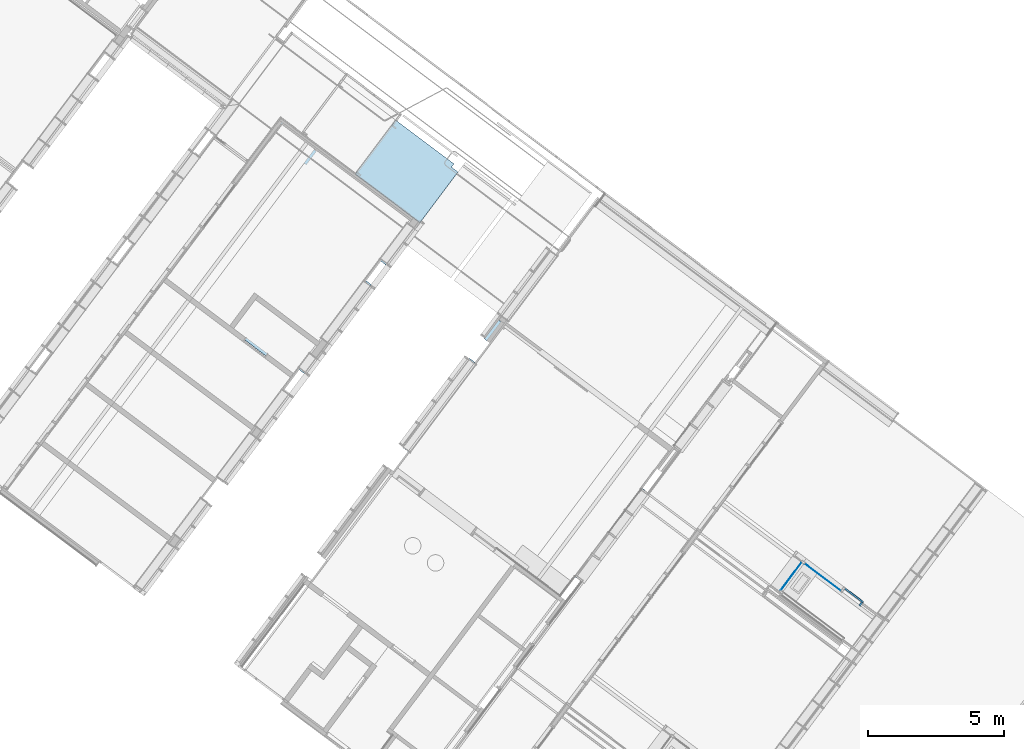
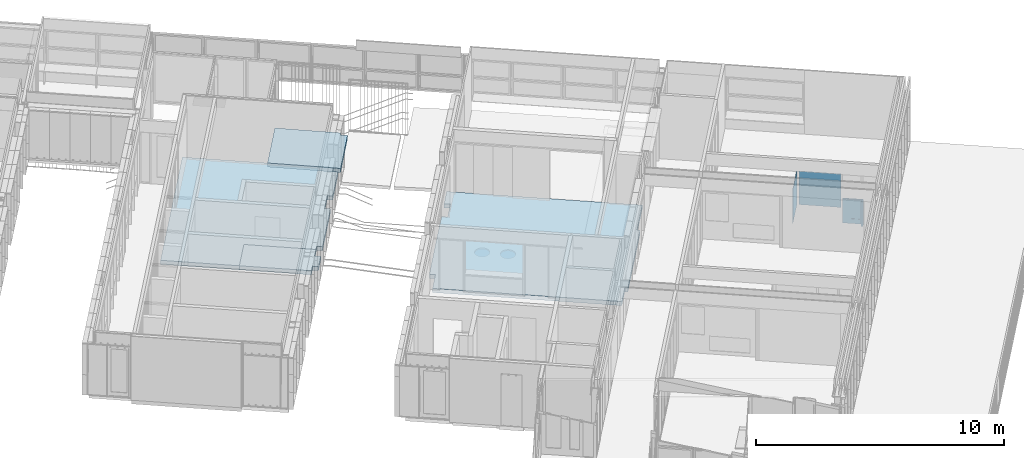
# One storey, part 113 of 243: 5 slabs, 3 plates, 2 elements without a shape of their own.
"""IFC2X3 building model written with IfcOpenShell, lengths in metres."""

from ifc_helpers import new_model, entity, si_unit, converted_unit, derived_unit, direction, frame, frame_2d, origin, origin_2d_with_axis, place, context, subcontext, project, spatial, polyline, rectangle, outline, extrude, clip, halfspace, faceted_brep, source, transform, mapped, material, material_list, layer, layer_set, layer_usage, type_object, type_shapes, element, aggregate, save


model = new_model("IFC2X3")

# Units and contexts
model_context = context("Model", 3, precision=1e-05, world=origin(), true_north=direction((6.123031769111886e-17, 1.0)))
body_context = subcontext(model_context, "Body", "Model", "MODEL_VIEW")
ifc_project = project(units=[si_unit("LENGTHUNIT", "METRE"), si_unit("AREAUNIT", "SQUARE_METRE"), si_unit("VOLUMEUNIT", "CUBIC_METRE"), converted_unit("PLANEANGLEUNIT", "DEGREE", entity("IfcRatioMeasure", 0.017453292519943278), si_unit("PLANEANGLEUNIT", "RADIAN"), dimensions=[0, 0, 0, 0, 0, 0, 0]), si_unit("MASSUNIT", "GRAM", prefix="KILO"), derived_unit("MASSDENSITYUNIT", [(si_unit("MASSUNIT", "GRAM", prefix="KILO"), 1), (si_unit("LENGTHUNIT", "METRE"), -3)]), derived_unit("IONCONCENTRATIONUNIT", [(si_unit("MASSUNIT", "GRAM", prefix="KILO"), 1), (si_unit("LENGTHUNIT", "METRE"), -3)]), derived_unit("MOMENTOFINERTIAUNIT", [(si_unit("LENGTHUNIT", "METRE"), 4)]), si_unit("TIMEUNIT", "SECOND"), si_unit("FREQUENCYUNIT", "HERTZ"), si_unit("THERMODYNAMICTEMPERATUREUNIT", "DEGREE_CELSIUS"), derived_unit("THERMALTRANSMITTANCEUNIT", [(si_unit("MASSUNIT", "GRAM", prefix="KILO"), 1), (si_unit("THERMODYNAMICTEMPERATUREUNIT", "KELVIN"), -1), (si_unit("TIMEUNIT", "SECOND"), -3)]), derived_unit("THERMALCONDUCTANCEUNIT", [(si_unit("MASSUNIT", "GRAM", prefix="KILO"), 1), (si_unit("THERMODYNAMICTEMPERATUREUNIT", "KELVIN"), -1), (si_unit("TIMEUNIT", "SECOND"), -3), (si_unit("LENGTHUNIT", "METRE"), 1)]), derived_unit("VOLUMETRICFLOWRATEUNIT", [(si_unit("LENGTHUNIT", "METRE"), 3), (si_unit("TIMEUNIT", "SECOND"), -1)]), derived_unit("MASSFLOWRATEUNIT", [(si_unit("MASSUNIT", "GRAM", prefix="KILO"), 1), (si_unit("TIMEUNIT", "SECOND"), -1)]), derived_unit("ROTATIONALFREQUENCYUNIT", [(si_unit("TIMEUNIT", "SECOND"), -1)]), si_unit("ELECTRICCURRENTUNIT", "AMPERE"), si_unit("ELECTRICVOLTAGEUNIT", "VOLT"), si_unit("POWERUNIT", "WATT"), si_unit("FORCEUNIT", "NEWTON", prefix="KILO"), si_unit("ILLUMINANCEUNIT", "LUX"), si_unit("LUMINOUSFLUXUNIT", "LUMEN"), si_unit("LUMINOUSINTENSITYUNIT", "CANDELA"), derived_unit("USERDEFINED", [(si_unit("MASSUNIT", "GRAM", prefix="KILO"), -1), (si_unit("LENGTHUNIT", "METRE"), -2), (si_unit("TIMEUNIT", "SECOND"), 3), (si_unit("LUMINOUSFLUXUNIT", "LUMEN"), 1)]), derived_unit("USERDEFINED", [(si_unit("MASSUNIT", "GRAM", prefix="KILO"), 1), (si_unit("TIMEUNIT", "SECOND"), -3), (si_unit("LENGTHUNIT", "METRE"), 3), (si_unit("ELECTRICCURRENTUNIT", "AMPERE"), -2)]), derived_unit("SOUNDPOWERUNIT", [(si_unit("MASSUNIT", "GRAM", prefix="KILO"), 1), (si_unit("TIMEUNIT", "SECOND"), -3), (si_unit("LENGTHUNIT", "METRE"), 2)]), derived_unit("SOUNDPRESSUREUNIT", [(si_unit("MASSUNIT", "GRAM", prefix="KILO"), 1), (si_unit("LENGTHUNIT", "METRE"), -1), (si_unit("TIMEUNIT", "SECOND"), -2)]), derived_unit("LINEARVELOCITYUNIT", [(si_unit("LENGTHUNIT", "METRE"), 1), (si_unit("TIMEUNIT", "SECOND"), -1)]), si_unit("PRESSUREUNIT", "PASCAL"), derived_unit("USERDEFINED", [(si_unit("MASSUNIT", "GRAM", prefix="KILO"), 1), (si_unit("LENGTHUNIT", "METRE"), -2), (si_unit("TIMEUNIT", "SECOND"), -2)]), derived_unit("LINEARFORCEUNIT", [(si_unit("MASSUNIT", "GRAM", prefix="KILO"), 1), (si_unit("TIMEUNIT", "SECOND"), -2)]), derived_unit("PLANARFORCEUNIT", [(si_unit("MASSUNIT", "GRAM", prefix="KILO"), 1), (si_unit("LENGTHUNIT", "METRE"), -1), (si_unit("TIMEUNIT", "SECOND"), -2)]), derived_unit("SPECIFICHEATCAPACITYUNIT", [(si_unit("THERMODYNAMICTEMPERATUREUNIT", "KELVIN"), -1), (si_unit("LENGTHUNIT", "METRE"), 2), (si_unit("TIMEUNIT", "SECOND"), -2)]), derived_unit("HEATINGVALUEUNIT", [(si_unit("LENGTHUNIT", "METRE"), 2), (si_unit("TIMEUNIT", "SECOND"), -2)]), derived_unit("VAPORPERMEABILITYUNIT", [(si_unit("LENGTHUNIT", "METRE"), -1), (si_unit("TIMEUNIT", "SECOND"), 1)]), derived_unit("DYNAMICVISCOSITYUNIT", [(si_unit("MASSUNIT", "GRAM", prefix="KILO"), 1), (si_unit("TIMEUNIT", "SECOND"), -1), (si_unit("LENGTHUNIT", "METRE"), -1)]), derived_unit("THERMALEXPANSIONCOEFFICIENTUNIT", [(si_unit("THERMODYNAMICTEMPERATUREUNIT", "KELVIN"), -1)]), derived_unit("MODULUSOFELASTICITYUNIT", [(si_unit("MASSUNIT", "GRAM", prefix="KILO"), 1), (si_unit("LENGTHUNIT", "METRE"), -1), (si_unit("TIMEUNIT", "SECOND"), -2)]), derived_unit("ISOTHERMALMOISTURECAPACITYUNIT", [(si_unit("LENGTHUNIT", "METRE"), 3), (si_unit("MASSUNIT", "GRAM", prefix="KILO"), -1)]), derived_unit("MOISTUREDIFFUSIVITYUNIT", [(si_unit("TIMEUNIT", "SECOND"), -1), (si_unit("LENGTHUNIT", "METRE"), 2)])], contexts=[model_context])

# Site, building, storey
site_placement = place(None, frame((0.0, 0.0, 235.0), z_axis=(0.0, 0.0, 1.0), x_axis=(-0.7996477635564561, 0.6004693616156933, 0.0)))
site = spatial("IfcSite", under=ifc_project, at=site_placement, Name="Default", CompositionType="ELEMENT")
building_placement = place(site_placement, origin())
building = spatial("IfcBuilding", under=site, at=building_placement, CompositionType="ELEMENT")
storey_placement = place(building_placement, origin())
storey = spatial("IfcBuildingStorey", under=building, at=storey_placement, Name="P0- Escola", CompositionType="ELEMENT", Elevation=0.0)

# Slabs
ifc_material_1 = material(Name="_Formigó antilliscant- T2- PAV")
ifc_layer_1 = layer(ifc_material_1, 0.14)
ifc_material_2 = material(Name="_Aillament")
ifc_layer_2 = layer(ifc_material_2, 0.06)
ifc_layer_set_1 = layer_set([ifc_layer_1, ifc_layer_2], Name="Suelo:PAV- Formigó Antilliscant + aillament- T1- 20 cm")
ifc_layer_usage_1 = layer_usage(ifc_layer_set_1, "AXIS3", "POSITIVE", 0.0)
slab_type_1 = type_object("IfcSlabType", Name="Suelo:PAV- Formigó Antilliscant + aillament- T1- 20 cm", PredefinedType="FLOOR", material=ifc_layer_set_1)
slab_1_placement = place(storey_placement, origin())
element("IfcSlab", 1, at=slab_1_placement, inside=storey, type_object=slab_type_1, material=ifc_layer_usage_1, Name="Suelo:PAV- Formigó Antilliscant + aillament- T1- 20 cm", ObjectType="Suelo:PAV- Formigó Antilliscant + aillament- T1- 20 cm", PredefinedType="FLOOR", context=body_context, shape_type="SweptSolid", body=[
    extrude(outline(polyline([(-0.5173571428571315, -1.4690428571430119), (2.1741428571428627, -1.4690428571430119), (2.1741428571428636, -1.2290428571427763), (2.3976428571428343, -1.2290428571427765), (2.3976428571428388, 1.7029571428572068), (3.9076428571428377, 1.7029571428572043), (3.9076428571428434, 4.905957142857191), (-3.4083571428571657, 4.905957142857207), (-3.408357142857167, -1.2290428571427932), (-3.1363571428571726, -1.2290428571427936), (-3.1363571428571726, -1.4527428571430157), (-1.417357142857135, -1.452742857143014), (-1.4173571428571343, -1.2290428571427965), (-0.5173571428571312, -1.2290428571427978), (-0.5173571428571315, -1.4690428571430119)])), frame((29.874190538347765, -33.94783461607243, 0.0), z_axis=(0.0, 0.0, -1.0), x_axis=(0.0, 1.0, 0.0)), (0.0, 0.0, 1.0), 0.2),
])
slab_2_placement = place(storey_placement, origin())
element("IfcSlab", 2, at=slab_2_placement, inside=storey, type_object=slab_type_1, material=ifc_layer_usage_1, Name="Suelo:PAV- Formigó Antilliscant + aillament- T1- 20 cm", ObjectType="Suelo:PAV- Formigó Antilliscant + aillament- T1- 20 cm", PredefinedType="FLOOR", context=body_context, shape_type="SweptSolid", body=[
    extrude(outline(polyline([(-0.3362499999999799, -0.9205000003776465), (0.3987500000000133, -0.9205000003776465), (0.3987500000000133, -0.6704999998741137), (0.7237499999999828, -0.670499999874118), (0.7237499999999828, 2.2615000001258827), (-0.7862500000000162, 2.2615000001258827), (-0.7862500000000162, -0.6704999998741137), (-0.3362499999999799, -0.6704999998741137), (-0.3362499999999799, -0.9205000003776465)])), frame((29.315647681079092, -30.763941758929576, 0.0), z_axis=(0.0, 0.0, -1.0), x_axis=(0.0, 1.0, 0.0)), (0.0, 0.0, 1.0), 0.2),
])
slab_3_placement = place(storey_placement, origin())
element("IfcSlab", 3, at=slab_3_placement, inside=storey, type_object=slab_type_1, material=ifc_layer_usage_1, Name="Suelo:PAV- Formigó Antilliscant + aillament- T1- 20 cm", ObjectType="Suelo:PAV- Formigó Antilliscant + aillament- T1- 20 cm", PredefinedType="FLOOR", context=body_context, shape_type="SweptSolid", body=[
    extrude(outline(polyline([(-1.5141428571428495, -4.578571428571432), (2.58585714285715, -4.578571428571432), (2.58585714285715, -4.45357142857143), (3.555857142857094, -4.453571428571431), (3.5558571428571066, 3.246428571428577), (2.5858571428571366, 3.2464285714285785), (2.5858571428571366, 3.496428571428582), (-1.5141428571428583, 3.49642857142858), (-1.5141428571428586, 3.2464285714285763), (-2.414142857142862, 3.246428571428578), (-2.4141428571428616, 3.4964285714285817), (-3.2851428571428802, 3.4964285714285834), (-3.2851428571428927, -4.453571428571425), (-1.5141428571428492, -4.453571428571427), (-1.5141428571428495, -4.578571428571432)])), frame((20.398719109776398, -32.95104890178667, 0.0), z_axis=(0.0, 0.0, -1.0), x_axis=(0.0, 1.0, 0.0)), (0.0, 0.0, 1.0), 0.2),
])
ifc_material_3 = material(Name="_Formigó antilliscant- T1 ext- PAV")
ifc_layer_3 = layer(ifc_material_3, 0.14)
ifc_layer_4 = layer(ifc_material_2, 0.06)
ifc_layer_set_2 = layer_set([ifc_layer_3, ifc_layer_4], Name="Suelo:PAV- Formigó Antilliscant + aillament- T1 ext- 20 cm")
ifc_layer_usage_2 = layer_usage(ifc_layer_set_2, "AXIS3", "POSITIVE", 0.0)
slab_type_2 = type_object("IfcSlabType", Name="Suelo:PAV- Formigó Antilliscant + aillament- T1 ext- 20 cm", PredefinedType="FLOOR", material=ifc_layer_set_2)
slab_4_placement = place(storey_placement, origin())
element("IfcSlab", 4, at=slab_4_placement, inside=storey, type_object=slab_type_2, material=ifc_layer_usage_2, Name="Suelo:PAV- Formigó Antilliscant + aillament- T1 ext- 20 cm", ObjectType="Suelo:PAV- Formigó Antilliscant + aillament- T1 ext- 20 cm", PredefinedType="FLOOR", context=body_context, shape_type="SweptSolid", body=[
    clip(clip(extrude(outline(polyline([(-0.7279999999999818, -1.0920246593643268), (1.6059999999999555, -1.0920246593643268), (1.6059999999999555, 1.8840425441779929), (-0.8779999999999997, 1.8840425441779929), (-0.8779999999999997, -0.7920178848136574), (-0.7279999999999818, -0.7920178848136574), (-0.7279999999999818, -1.0920246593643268)])), frame((29.43714768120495, -38.96219175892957, -0.012661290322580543), z_axis=(0.006720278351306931, 0.0, -0.9999774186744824), x_axis=(0.0, 1.0, 0.0)), (0.0, -0.006720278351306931, 0.9999774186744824), 0.20000903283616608), halfspace(frame((31.321147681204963, -38.62519175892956, -0.20000451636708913), z_axis=(0.006720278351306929, 0.0, -0.9999774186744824), x_axis=(-0.9999774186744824, 0.0, -0.006720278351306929)), False)), halfspace(frame((31.321147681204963, -38.62519175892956, 0.0), z_axis=(-0.006720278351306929, 0.0, 0.9999774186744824), x_axis=(0.9999774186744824, 0.0, 0.006720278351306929)), False)),
])
slab_5_placement = place(storey_placement, origin())
element("IfcSlab", 5, at=slab_5_placement, inside=storey, type_object=slab_type_2, material=ifc_layer_usage_2, Name="Suelo:PAV- Formigó Antilliscant + aillament- T1 ext- 20 cm", ObjectType="Suelo:PAV- Formigó Antilliscant + aillament- T1 ext- 20 cm", PredefinedType="FLOOR", context=body_context, shape_type="SweptSolid", body=[
    clip(clip(extrude(outline(polyline([(-0.7279999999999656, -1.0920246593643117), (1.6059999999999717, -1.0920246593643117), (1.6059999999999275, 1.884042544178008), (-0.8780000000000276, 1.8840425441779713), (-0.8779999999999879, -0.7920178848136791), (-0.72799999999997, -0.792017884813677), (-0.7279999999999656, -1.0920246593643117)])), frame((29.43714768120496, -38.96219175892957, -0.012661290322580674), z_axis=(0.006720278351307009, 0.0, -0.9999774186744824), x_axis=(0.0, 1.0, 0.0)), (0.0, -0.006720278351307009, 0.9999774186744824), 0.20000903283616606), halfspace(frame((31.321147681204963, -38.64269175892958, -0.20000451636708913), z_axis=(0.0067202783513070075, 0.0, -0.9999774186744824), x_axis=(-0.9999774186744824, 0.0, -0.0067202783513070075)), False)), halfspace(frame((31.321147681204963, -38.64269175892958, 0.0), z_axis=(-0.0067202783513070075, 0.0, 0.9999774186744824), x_axis=(0.9999774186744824, 0.0, 0.0067202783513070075)), False)),
])

# Curtain wall, plates
curtain_wall_type_1 = type_object("IfcCurtainWallType", Name="Muro cortina:MC- INT- k1", PredefinedType="NOTDEFINED")
curtain_wall_1_placement = place(storey_placement, origin())
curtain_wall_1 = element("IfcCurtainWall", 6, at=curtain_wall_1_placement, inside=storey, type_object=curtain_wall_type_1, Name="Muro cortina:MC- INT- k1", ObjectType="Muro cortina:MC- INT- k1")
ifc_material_4 = material(Name="_Fusta massisa- T1")
ifc_material_5 = material(Name="_Vidre")
ifc_material_list = material_list([ifc_material_4, ifc_material_5])
plate_type_1 = type_object("IfcPlateType", Name="PanellMurCortina_PortaInteriorVidre-infantil inf:PanellMurCortina_PortaInteriorVidre-infantil inf", PredefinedType="CURTAIN_PANEL", material=ifc_material_list)
shared_shape_1 = source(origin(), body_context, "Body", "Brep", [
    faceted_brep([(0.27550000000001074, 0.16299999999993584, 1.0600000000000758), (0.2755000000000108, 0.19299999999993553, 1.0600000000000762), (0.2755000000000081, 0.19299999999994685, 0.239999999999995), (0.2755000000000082, 0.16299999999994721, 0.23999999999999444), (0.29050000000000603, 0.19299999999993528, 1.0750000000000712), (0.29050000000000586, 0.1629999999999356, 1.0750000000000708), (0.2905000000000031, 0.16299999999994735, 0.22499999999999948), (0.2905000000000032, 0.19299999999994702, 0.22499999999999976), (-0.21049999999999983, 0.19299999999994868, 0.2399999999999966), (-0.21049999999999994, 0.16299999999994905, 0.23999999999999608), (-0.2254999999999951, 0.1629999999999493, 0.2250000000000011), (-0.2254999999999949, 0.19299999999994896, 0.22500000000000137), (-0.21049999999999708, 0.1929999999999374, 1.0600000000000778), (-0.2104999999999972, 0.1629999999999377, 1.0600000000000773), (-0.2254999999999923, 0.16299999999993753, 1.0750000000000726), (-0.22549999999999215, 0.19299999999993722, 1.075000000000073)], [[[0, 1, 2, 3]], [[4, 5, 6, 7]], [[3, 2, 8, 9]], [[7, 6, 10, 11]], [[9, 8, 12, 13]], [[11, 10, 14, 15]], [[13, 12, 1, 0]], [[3, 9, 13, 0], [5, 14, 10, 6]], [[15, 14, 5, 4]], [[1, 12, 8, 2], [7, 11, 15, 4]]], outer=[[True], [True], [True], [True], [True], [True], [True], [False, True], [True], [False, True]]),
    faceted_brep([(0.29050000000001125, 0.16299999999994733, 1.0750000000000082), (-0.22549999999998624, 0.16299999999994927, 1.0750000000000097), (-0.2254999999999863, 0.1429999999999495, 1.0750000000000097), (0.2905000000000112, 0.14299999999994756, 1.0750000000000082), (0.29050000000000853, 0.16299999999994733, 0.2249999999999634), (0.2905000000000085, 0.14299999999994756, 0.2249999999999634), (-0.22549999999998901, 0.1429999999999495, 0.22499999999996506), (-0.22549999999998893, 0.16299999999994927, 0.22499999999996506)], [[[0, 1, 2, 3]], [[4, 5, 6, 7]], [[1, 0, 4, 7]], [[2, 1, 7, 6]], [[3, 2, 6, 5]], [[0, 3, 5, 4]]]),
    faceted_brep([(0.4225000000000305, 0.15799999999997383, 1.184999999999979), (-0.40749999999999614, 0.15799999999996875, 1.184999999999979), (-0.4074999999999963, 0.12799999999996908, 1.184999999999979), (0.39250000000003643, 0.12799999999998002, 1.184999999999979), (0.39918172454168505, 0.1287535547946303, 1.184999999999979), (0.40552006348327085, 0.1309726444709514, 1.184999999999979), (0.41120592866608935, 0.13454604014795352, 1.184999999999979), (0.41595395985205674, 0.13929407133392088, 1.184999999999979), (0.41952735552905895, 0.14497993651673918, 1.184999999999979), (0.4217469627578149, 0.15132054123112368, 1.184999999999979), (0.4137132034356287, 0.1367867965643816, 0.004999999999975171), (0.4075000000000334, 0.1320192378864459, 0.004999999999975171), (0.4002645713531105, 0.12902222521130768, 0.004999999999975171), (0.39250000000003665, 0.12799999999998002, 0.004999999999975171), (-0.4074999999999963, 0.12799999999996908, 0.004999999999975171), (-0.40749999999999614, 0.15799999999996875, 0.004999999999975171), (-0.42249999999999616, 0.15799999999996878, 0.004999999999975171), (-0.42249999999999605, 0.18799999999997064, 0.004999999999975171), (0.39250000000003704, 0.18799999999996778, 0.004999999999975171), (0.40026457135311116, 0.18697777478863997, 0.004999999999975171), (0.40750000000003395, 0.18398076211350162, 0.004999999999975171), (0.41371320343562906, 0.17921320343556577, 0.004999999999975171), (0.4184807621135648, 0.1729999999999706, 0.004999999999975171), (0.4214777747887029, 0.16576457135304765, 0.004999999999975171), (0.42250000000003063, 0.15799999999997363, 0.004999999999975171), (0.4214777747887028, 0.15023542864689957, 0.004999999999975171), (0.4184807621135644, 0.1429999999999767, 0.004999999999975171), (-0.21049999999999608, 0.1429999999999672, 1.0599999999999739), (-0.21049999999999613, 0.1279999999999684, 1.0599999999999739), (-0.21049999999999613, 0.1279999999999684, 0.23999999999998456), (-0.21049999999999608, 0.1429999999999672, 0.23999999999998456), (0.2903124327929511, 0.14299999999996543, 1.0749999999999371), (0.2755000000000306, 0.14299999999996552, 1.0599999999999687), (0.2755000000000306, 0.14299999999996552, 0.23999999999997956), (-0.2254999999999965, 0.14299999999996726, 1.0749999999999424), (0.2903124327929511, 0.14299999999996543, 0.22499999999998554), (-0.2254999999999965, 0.14299999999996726, 0.22499999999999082), (-0.22549999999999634, 0.18799999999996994, 1.0749999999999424), (-0.22549999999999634, 0.18799999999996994, 0.22499999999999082), (0.3925000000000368, 0.18799999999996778, 1.199999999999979), (0.3925000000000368, 0.18799999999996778, 1.184999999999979), (0.2903124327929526, 0.18799999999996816, 1.0749999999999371), (-0.42249999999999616, 0.18799999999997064, 1.199999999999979), (0.29031243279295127, 0.18799999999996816, 0.22499999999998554), (0.39250000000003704, 0.18799999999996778, 0.8025029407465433), (0.392500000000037, 0.18799999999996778, 0.420005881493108), (0.39250000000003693, 0.18799999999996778, 0.19624852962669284), (-0.42249999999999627, 0.15799999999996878, 1.199999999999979), (0.4225000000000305, 0.15799999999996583, 1.199999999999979), (0.2755000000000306, 0.1279999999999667, 0.23999999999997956), (0.3925000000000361, 0.12799999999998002, 0.19624503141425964), (0.3925000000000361, 0.12799999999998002, 0.4200079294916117), (0.3925000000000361, 0.12799999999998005, 0.8025019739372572), (0.2755000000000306, 0.1279999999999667, 1.0599999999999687), (0.41848076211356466, 0.1729999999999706, 1.1999999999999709), (0.41371320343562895, 0.17921320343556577, 1.199999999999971), (0.4075000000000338, 0.1839807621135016, 1.199999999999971), (0.400264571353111, 0.18697777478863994, 1.199999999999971), (0.4214777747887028, 0.16576457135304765, 1.1999999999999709), (0.39803298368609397, 0.1285146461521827, 0.30812720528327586), (0.40398050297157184, 0.13028361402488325, 0.3495967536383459), (0.4202163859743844, 0.1694805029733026, 0.9192462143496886), (0.42021638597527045, 0.1694805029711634, 0.5552842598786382), (0.41630060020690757, 0.17626284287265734, 0.8348288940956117), (0.4202163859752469, 0.1694805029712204, 0.26042447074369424), (0.41630060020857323, 0.1762628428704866, 0.3392951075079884), (0.42208034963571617, 0.16300029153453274, 0.5921116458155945), (0.42231114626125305, 0.15463911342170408, 0.5950000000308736), (0.42224334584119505, 0.16191578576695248, 0.33929510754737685), (0.4024131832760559, 0.12968518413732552, 0.9691144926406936), (0.42224334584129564, 0.15408421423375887, 0.26951946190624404), (0.39875948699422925, 0.18733971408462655, 0.6108189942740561), (0.4048786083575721, 0.1853270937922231, 0.5949999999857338), (0.4039805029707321, 0.1857163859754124, 0.3551711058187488), (0.39791837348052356, 0.12849336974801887, 0.5506590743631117), (0.4107628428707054, 0.13419939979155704, 0.26059581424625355), (0.3981126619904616, 0.18747029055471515, 0.9440836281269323), (0.4002645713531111, 0.1869777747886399, 1.184999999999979), (0.403980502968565, 0.18571638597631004, 0.8348288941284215), (0.4202163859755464, 0.14651949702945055, 0.3660157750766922), (0.40241318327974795, 0.12968518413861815, 0.7190366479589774), (0.4163006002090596, 0.13973715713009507, 0.27567279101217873), (0.4132780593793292, 0.13636040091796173, 0.8385075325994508), (0.4083604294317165, 0.13253538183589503, 0.6408327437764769), (0.41371320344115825, 0.13678679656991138, 0.6017493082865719), (0.408463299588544, 0.13259974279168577, 0.9007300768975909), (0.3980476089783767, 0.18748260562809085, 0.3081272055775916), (0.4176643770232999, 0.1416673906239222, 0.5120494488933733), (0.41732286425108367, 0.14115288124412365, 0.8063880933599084), (0.42234327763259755, 0.15493752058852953, 0.9332073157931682), (0.42224334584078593, 0.16191578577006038, 0.8449281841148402), (0.4208151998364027, 0.14808791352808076, 0.8494345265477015), (0.41076284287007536, 0.18180060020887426, 0.26951946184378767), (0.4107628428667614, 0.18180060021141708, 0.595000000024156), (0.41076284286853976, 0.18180060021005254, 0.9169571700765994), (0.4214777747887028, 0.16576457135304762, 1.184999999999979), (0.413713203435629, 0.1792132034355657, 1.184999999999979), (0.4184807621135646, 0.17299999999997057, 1.184999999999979), (0.41558155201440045, 0.1771635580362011, 0.5870620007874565), (0.40750000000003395, 0.18398076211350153, 1.184999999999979), (0.4203955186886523, 0.1469618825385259, 0.6094956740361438)], [[[0, 1, 2, 3, 4, 5, 6, 7, 8, 9]], [[10, 11, 12, 13, 14, 15, 16, 17, 18, 19, 20, 21, 22, 23, 24, 25, 26]], [[27, 28, 29, 30]], [[31, 32, 27]], [[32, 31, 33]], [[27, 34, 31]], [[35, 33, 31]], [[33, 35, 30]], [[36, 30, 35]], [[30, 36, 34]], [[34, 27, 30]], [[37, 34, 36, 38]], [[39, 40, 41]], [[37, 39, 41]], [[39, 37, 42]], [[40, 43, 41]], [[43, 40, 44]], [[43, 44, 45]], [[43, 45, 46]], [[43, 46, 18]], [[43, 18, 38]], [[17, 38, 18]], [[38, 17, 42]], [[38, 42, 37]], [[47, 42, 17, 16]], [[0, 48, 47, 16, 15, 1]], [[2, 1, 15, 14]], [[2, 28, 3]], [[28, 2, 29]], [[14, 29, 2]], [[29, 14, 13]], [[13, 49, 29]], [[49, 13, 50]], [[49, 50, 51]], [[49, 51, 52]], [[49, 52, 3]], [[3, 53, 49]], [[53, 3, 28]], [[31, 41, 43, 35]], [[53, 32, 33, 49]], [[32, 53, 28, 27]], [[41, 31, 34, 37]], [[54, 55, 56, 57, 39, 42, 47, 48, 58]], [[35, 43, 38, 36]], [[49, 33, 30, 29]], [[59, 12, 60]], [[61, 62, 63]], [[64, 65, 62]], [[66, 67, 68]], [[4, 69, 5]], [[68, 70, 24]], [[71, 72, 73]], [[59, 74, 51]], [[10, 75, 11]], [[76, 77, 78]], [[26, 25, 79]], [[12, 11, 60]], [[52, 80, 69]], [[81, 26, 79]], [[82, 83, 84]], [[23, 64, 68]], [[69, 85, 5]], [[73, 86, 71]], [[6, 85, 82]], [[87, 88, 84]], [[19, 18, 46]], [[39, 57, 77, 40]], [[89, 67, 90]], [[8, 91, 9]], [[24, 70, 25]], [[4, 3, 52]], [[64, 23, 22]], [[44, 76, 71]], [[86, 46, 45]], [[24, 23, 68]], [[65, 92, 93]], [[93, 94, 63]], [[40, 77, 76]], [[21, 92, 65]], [[61, 95, 90]], [[96, 97, 63]], [[26, 81, 10]], [[98, 62, 65]], [[78, 77, 99]], [[89, 90, 0]], [[0, 90, 95]], [[5, 85, 6]], [[12, 59, 50]], [[94, 93, 78]], [[93, 92, 73]], [[87, 84, 81]], [[97, 95, 61]], [[63, 94, 96]], [[88, 8, 7]], [[100, 67, 91]], [[65, 22, 21]], [[94, 99, 96]], [[9, 91, 89]], [[10, 81, 75]], [[20, 19, 73]], [[83, 85, 80]], [[74, 52, 51]], [[82, 84, 88]], [[66, 68, 62]], [[70, 67, 79]], [[21, 20, 92]], [[63, 98, 93]], [[87, 81, 79]], [[84, 83, 75]], [[78, 99, 94]], [[61, 90, 66]], [[63, 97, 61]], [[67, 70, 68]], [[79, 25, 70]], [[20, 73, 92]], [[65, 64, 22]], [[68, 64, 62]], [[84, 75, 81]], [[60, 11, 75]], [[52, 69, 4]], [[85, 69, 80]], [[50, 59, 51]], [[50, 13, 12]], [[74, 60, 80]], [[60, 74, 59]], [[52, 74, 80]], [[71, 86, 45]], [[46, 86, 19]], [[19, 86, 73]], [[44, 71, 45]], [[71, 78, 72]], [[80, 60, 83]], [[75, 83, 60]], [[79, 100, 87]], [[87, 100, 88]], [[8, 88, 91]], [[7, 6, 82]], [[67, 100, 79]], [[88, 100, 91]], [[7, 82, 88]], [[83, 82, 85]], [[78, 93, 72]], [[93, 73, 72]], [[71, 76, 78]], [[40, 76, 44]], [[9, 89, 0]], [[67, 89, 91]], [[61, 66, 62]], [[67, 66, 90]], [[62, 98, 63]], [[65, 93, 98]], [[58, 48, 0, 95]], [[54, 58, 95, 97]], [[55, 54, 97, 96]], [[56, 55, 96, 99]], [[57, 56, 99, 77]]]),
    faceted_brep([(-0.42249999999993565, 0.15772492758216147, 0.0), (-0.409500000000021, 0.15772492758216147, 0.0), (-0.409500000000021, 0.12799999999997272, 0.0), (-0.41749999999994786, 0.12799999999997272, 0.0), (-0.41749999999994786, 0.13199999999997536, 0.0), (-0.42249999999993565, 0.13199999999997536, 0.0), (-0.42249999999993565, 0.15772492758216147, 1.1999999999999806), (-0.409500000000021, 0.15772492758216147, 1.1999999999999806), (-0.409500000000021, 0.12799999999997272, 1.1999999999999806), (-0.41749999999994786, 0.12799999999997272, 1.1999999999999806), (-0.41749999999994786, 0.13199999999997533, 1.1999999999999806), (-0.42249999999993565, 0.13199999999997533, 1.1999999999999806)], [[[0, 1, 2, 3, 4, 5]], [[6, 7, 1, 0]], [[7, 8, 2, 1]], [[8, 9, 3, 2]], [[9, 10, 4, 3]], [[10, 11, 5, 4]], [[11, 6, 0, 5]], [[6, 11, 10, 9, 8, 7]]]),
    faceted_brep([(0.4225000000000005, -0.026000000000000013, 1.2000000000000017), (0.4225000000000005, 0.12400000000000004, 1.2000000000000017), (0.3525000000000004, 0.12400000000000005, 1.2000000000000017), (0.3525000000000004, -0.026000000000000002, 1.2000000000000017), (0.4225000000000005, -0.026000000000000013, 0.0), (0.3525000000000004, -0.026000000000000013, 0.0), (0.3525000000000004, 0.12400000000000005, 0.0), (0.4225000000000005, 0.12400000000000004, 0.0)], [[[0, 1, 2, 3]], [[4, 5, 6, 7]], [[3, 5, 4, 0]], [[2, 6, 5, 3]], [[1, 7, 6, 2]], [[0, 4, 7, 1]]]),
])
type_shapes(plate_type_1, [shared_shape_1])
plate_1_placement = place(curtain_wall_1_placement, frame((7.346647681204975, -35.827191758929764, 0.0), z_axis=(0.0, 0.0, 1.0), x_axis=(-1.0, 0.0, 0.0)))
plate_1 = element("IfcPlate", 7, at=plate_1_placement, type_object=plate_type_1, material=ifc_material_list, Name="PanellMurCortina_PortaInteriorVidre-infantil inf:PanellMurCortina_PortaInteriorVidre-infantil inf", ObjectType="PanellMurCortina_PortaInteriorVidre-infantil inf:PanellMurCortina_PortaInteriorVidre-infantil inf", context=body_context, shape_type="MappedRepresentation", body=[
    mapped(shared_shape_1, transform((0.0, 0.0, 0.0), scale=1.0)),
])
plate_type_2 = type_object("IfcPlateType", Name="Panel de sistema:FUS- Vidre- ext- T1", PredefinedType="CURTAIN_PANEL", material=ifc_material_5)
shared_shape_2 = source(origin(), body_context, "Body", "SweptSolid", [
    extrude(rectangle(XDim=1.6500000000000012, YDim=1.6960000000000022, at=frame_2d((0.1599999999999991, 0.0), x_axis=(1.0, 0.0))), frame((0.0, -0.009999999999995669, 0.6650000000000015), z_axis=(0.0, 1.0, 0.0), x_axis=(0.0, 0.0, 1.0)), (0.0, 0.0, 1.0), 0.02),
])
type_shapes(plate_type_2, [shared_shape_2])
plate_2_placement = place(curtain_wall_1_placement, frame((8.667147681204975, -35.82719175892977, 0.8549999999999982), z_axis=(0.0, 0.0, 1.0), x_axis=(-1.0, 0.0, 0.0)))
plate_2 = element("IfcPlate", 8, at=plate_2_placement, type_object=plate_type_2, material=ifc_material_5, Name="Panel de sistema:FUS- Vidre- ext- T1", ObjectType="Panel de sistema:FUS- Vidre- ext- T1", context=body_context, shape_type="MappedRepresentation", body=[
    mapped(shared_shape_2, transform((0.0, 0.0, 0.0), scale=1.0)),
])
aggregate(curtain_wall_1, [plate_1, plate_2])

# Curtain wall, plate
curtain_wall_type_2 = type_object("IfcCurtainWallType", Name="Muro cortina:MC- INT- k1", PredefinedType="NOTDEFINED")
curtain_wall_2_placement = place(storey_placement, origin())
curtain_wall_2 = element("IfcCurtainWall", 9, at=curtain_wall_2_placement, inside=storey, type_object=curtain_wall_type_2, Name="Muro cortina:MC- INT- k1", ObjectType="Muro cortina:MC- INT- k1")
plate_type_3 = type_object("IfcPlateType", Name="PanellMurCortina_VidreInterior_EixCentral:MC- INT- Panell vidre", PredefinedType="CURTAIN_PANEL", material=ifc_material_5)
shared_shape_3 = source(origin(), body_context, "Body", "SweptSolid", [
    extrude(rectangle(XDim=1.311000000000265, YDim=0.019999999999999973, at=origin_2d_with_axis()), frame((0.0, 0.0, 0.0), z_axis=(0.0, 0.0, 1.0), x_axis=(-1.0, 0.0, 0.0)), (0.0, 0.0, 1.0), 1.6649999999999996),
])
type_shapes(plate_type_3, [shared_shape_3])
plate_3_placement = place(curtain_wall_2_placement, frame((9.619147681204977, -35.14569175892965, 0.8399999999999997), z_axis=(0.0, 0.0, 1.0), x_axis=(0.0, 1.0, 0.0)))
plate_3 = element("IfcPlate", 10, at=plate_3_placement, type_object=plate_type_3, material=ifc_material_5, Name="PanellMurCortina_VidreInterior_EixCentral:MC- INT- Panell vidre", ObjectType="PanellMurCortina_VidreInterior_EixCentral:MC- INT- Panell vidre", context=body_context, shape_type="MappedRepresentation", body=[
    mapped(shared_shape_3, transform((0.0, 0.0, 0.0), scale=1.0)),
])
aggregate(curtain_wall_2, [plate_3])

save(model, "model.ifc")
